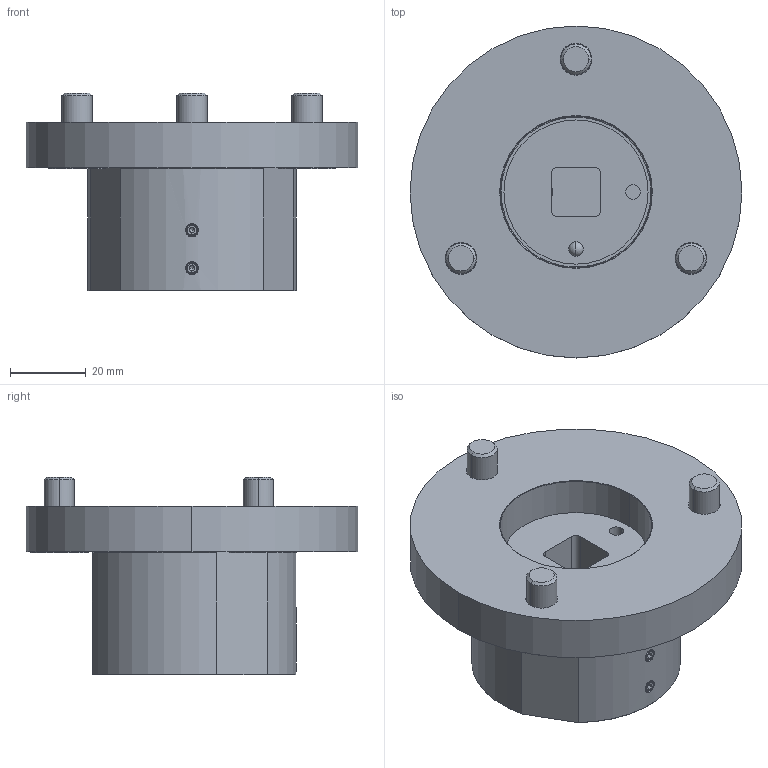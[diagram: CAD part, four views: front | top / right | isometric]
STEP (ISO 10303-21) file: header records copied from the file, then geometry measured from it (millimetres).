
FILE_DESCRIPTION (( 'STEP AP203' ), '1' );
FILE_NAME ('8800293_p.STEP', '2024-03-01T19:31:52', ( '' ), ( '' ), 'SwSTEP 2.0', 'SolidWorks 2022', '' );
FILE_SCHEMA (( 'CONFIG_CONTROL_DESIGN' ));
Length unit declared in the file: millimetre
Products named in the file (1): 8800293_p
Bounding box: 87.5 x 87.5 x 52.19 mm (x, y, z)
Volume: 122007.3 mm3; surface area: 33077.5 mm2
Topology: 11 solids, 11 shells, 289 faces, 682 edges, 409 vertices
Faces by surface type: plane 133, cone 68, cylinder 62, bspline 18, torus 6, sphere 2
Entity records: 9414 total; most frequent: CARTESIAN_POINT 2776, DIRECTION 1392, ORIENTED_EDGE 1322, EDGE_CURVE 661, AXIS2_PLACEMENT_3D 514, VERTEX_POINT 406, VECTOR 364, LINE 364
